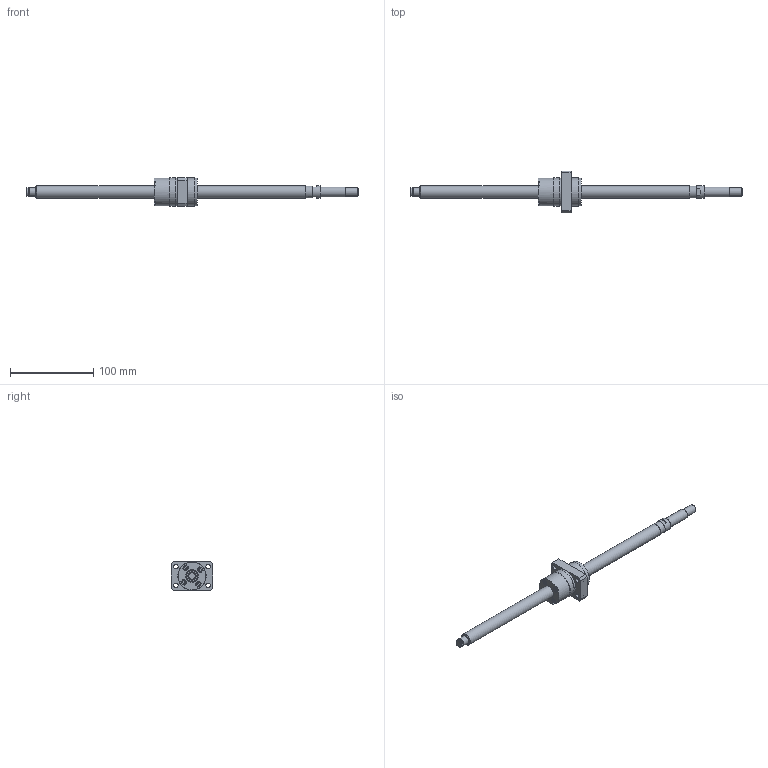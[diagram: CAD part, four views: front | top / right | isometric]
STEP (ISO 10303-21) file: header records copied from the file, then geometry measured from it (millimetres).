
FILE_DESCRIPTION(/* description */ ('STEP AP214'),/* implementation_level */ '2;1');
FILE_NAME(/* name */ 'SG1520-325R400C5B0X(142.5)',/* time_stamp */ '2026-07-24T21:03:27+02:00',/* author */ ('License CC BY-ND 4.0'),/* organization */ ('CADENAS'),/* preprocessor_version */ 'ST-DEVELOPER v20',/* originating_system */ 'PARTsolutions',/* authorisation */ ' ');
FILE_SCHEMA (('AUTOMOTIVE_DESIGN {1 0 10303 214 3 1 1}'));
Length unit declared in the file: millimetre
Products named in the file (3): SG1520-325R400C5B0X(142.5); SG1520-325R400C5B_shaft; SG1520 C5_nut
Assembly tree (2 placements, depth 2):
  SG1520-325R400C5B0X(142.5)
    SG1520-325R400C5B_shaft
    SG1520 C5_nut
Bounding box: 400 x 50 x 34 mm (x, y, z)
Volume: 109343.3 mm3; surface area: 31297.8 mm2
Topology: 2 solids, 2 shells, 121 faces, 268 edges, 173 vertices
Faces by surface type: plane 76, cylinder 36, cone 8, torus 1
Full cylindrical faces by diameter (mm): 2 x1, 4.917 x1, 5.5 x8, 9.5 x4, 9.6 x1, 10 x3, 12 x1, 14.387 x1, 15 x3, 33.5 x3, 34 x2
Entity records: 3234 total; most frequent: DIRECTION 568, CARTESIAN_POINT 532, ORIENTED_EDGE 456, EDGE_CURVE 228, AXIS2_PLACEMENT_3D 217, EDGE_LOOP 192, FACE_BOUND 192, VERTEX_POINT 170
